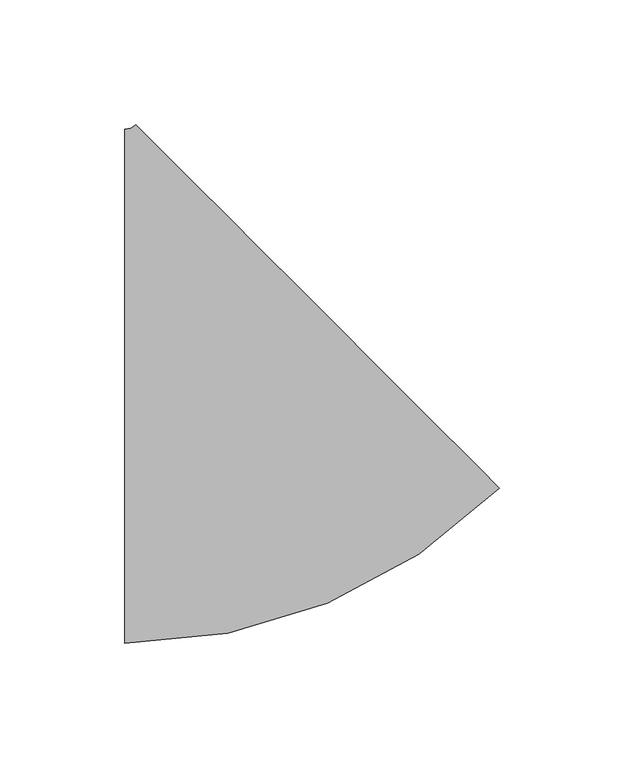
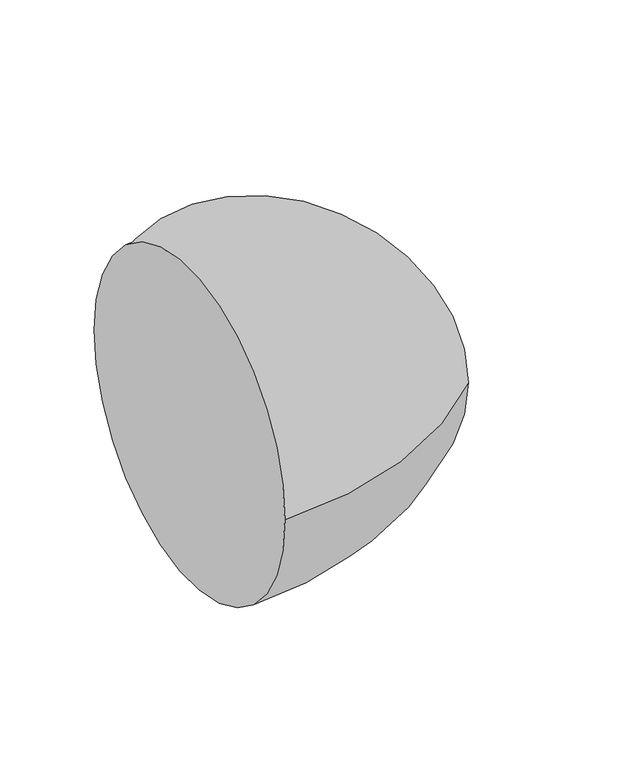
"""IFC4 building model written with IfcOpenShell, lengths in millimetres: pipe fitting geometry, M_Codo - Genérico : Estándar."""

from ifc_helpers import new_model, si_unit, point, frame, origin, place, context, project, spatial, circle_curve, ellipse_curve, trimmed, source, transform, mapped, element, save
from ifc_brep_helpers import plane_surface, revolved_surface, advanced_brep


def pipe_fitting_7388a683(model_context):
    return source(origin(), model_context, "Body", "AdvancedBrep", [
        advanced_brep(
        [(-45.3694055, -103.1875, 0.0), (-45.3694055, 103.1875, 0.0), (105.0439942, -40.8876801, 0.0), (-40.8794533, 105.0471961, 0.0)],
        [
            (0, 1, circle_curve(frame((-45.3694055, 0.0, 0.0), z_axis=(-1.0, 0.0, 0.0), x_axis=(0.0, 1.0, 0.0)), 103.1875)),
            (1, 0, circle_curve(frame((-45.3694055, 0.0, 0.0), z_axis=(-1.0, 0.0, 0.0), x_axis=(0.0, 1.0, 0.0)), 103.1875)),
            (2, 3, circle_curve(frame((32.0822705, 32.079758, 0.0), z_axis=(0.7071344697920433, 0.7070790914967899, 0.0), x_axis=(-0.7070790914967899, 0.7071344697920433, 0.0)), 103.1875)),
            (3, 2, circle_curve(frame((32.0822705, 32.079758, 0.0), z_axis=(0.7071344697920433, 0.7070790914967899, 0.0), x_axis=(-0.7070790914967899, 0.7071344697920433, 0.0)), 103.1875)),
            (3, 1, circle_curve(frame((-45.3694055, 109.5375, 0.0), z_axis=(0.0, 0.0, -1.0), x_axis=(0.0, -1.0, 0.0)), 6.35)),
            (0, 2, circle_curve(frame((-45.3694055, 109.5375, 0.0), z_axis=(0.0, 0.0, 1.0), x_axis=(0.0, -1.0, 0.0)), 212.725)),
        ],
        [
            plane_surface(frame((-45.3694055, 0.0, 0.0), z_axis=(-1.0, 0.0, 0.0), x_axis=(0.0, 0.0, 1.0))),
            plane_surface(frame((32.0822705, 32.079758, 0.0), z_axis=(0.7071344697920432, 0.70707909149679, 0.0), x_axis=(0.0, 0.0, 1.0))),
            revolved_surface(trimmed(ellipse_curve(frame((-45.3694055, 0.0, 0.0), z_axis=(-1.0, 0.0, 0.0), x_axis=(0.0, 1.0, 0.0)), 103.1875, 103.1875), [point((-45.3694055, -103.1875, 0.0))], [point((-45.3694055, 103.1875, 0.0))], True, "CARTESIAN"), (-45.3694055, 109.5375, 0.0), (0.0, 0.0, 1.0)),
            revolved_surface(trimmed(ellipse_curve(frame((-45.3694055, 0.0, 0.0), z_axis=(-1.0, 0.0, 0.0), x_axis=(0.0, 1.0, 0.0)), 103.1875, 103.1875), [point((-45.3694055, 103.1875, 0.0))], [point((-45.3694055, -103.1875, 0.0))], True, "CARTESIAN"), (-45.3694055, 109.5375, 0.0), (0.0, 0.0, 1.0)),
        ],
        [
            (0, [[1, 2]]),
            (1, [[3, 4]]),
            (2, [[5, -1, 6, -4]]),
            (3, [[-6, -2, -5, -3]]),
        ],
    ),
    ])


if __name__ == "__main__":
    model = new_model("IFC4")
    model_context = context("Model", 3, world=origin())
    ifc_project = project(units=[si_unit("LENGTHUNIT", "METRE", prefix="MILLI")], contexts=[model_context])
    site = spatial("IfcSite", under=ifc_project)
    building = spatial("IfcBuilding", under=site)
    placement = place(None, origin())
    pipe_fitting_shape = pipe_fitting_7388a683(model_context)
    element("IfcPipeFitting", 1, ObjectType="M_Codo - Genérico : Estándar", at=placement, inside=building, context=model_context, shape_type="MappedRepresentation", body=[
        mapped(pipe_fitting_shape, transform((0.0, 0.0, 0.0), x_axis=(1.0, 0.0, 0.0), y_axis=(0.0, 1.0, 0.0), z_axis=(0.0, 0.0, 1.0))),
    ])
    save(model, "model.ifc")
